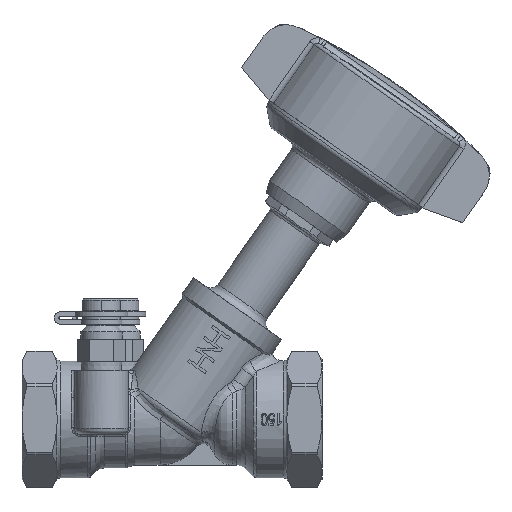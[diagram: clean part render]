
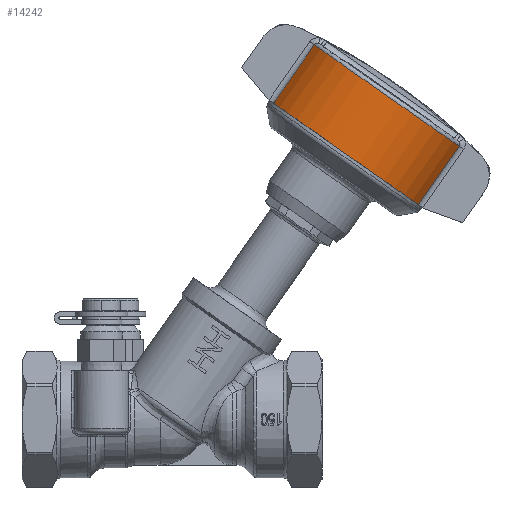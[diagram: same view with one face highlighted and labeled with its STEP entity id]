
A CAD part, front view. The second image highlights one B-rep face of the part: STEP entity #14242.
In plain terms, the highlighted cylindrical face has radius 31.925 mm (diameter 63.85 mm), a partial arc.
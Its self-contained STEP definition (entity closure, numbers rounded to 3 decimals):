
#13101=CARTESIAN_POINT('',(45.681,-12.348,91.032));
#13102=VERTEX_POINT('',#13101);
#13110=CARTESIAN_POINT('',(32.088,-12.348,71.618));
#13111=VERTEX_POINT('',#13110);
#13112=CARTESIAN_POINT('',(45.681,-12.348,91.032));
#13113=DIRECTION('',(-0.574,0.,-0.819));
#13114=VECTOR('',#13113,23.7);
#13115=LINE('',#13112,#13114);
#13116=EDGE_CURVE('',#13102,#13111,#13115,.T.);
#13511=CARTESIAN_POINT('',(-2.565,-12.308,124.814));
#13512=VERTEX_POINT('',#13511);
#13542=CARTESIAN_POINT('',(-16.158,-12.308,105.4));
#13543=VERTEX_POINT('',#13542);
#13551=CARTESIAN_POINT('',(-16.158,-12.308,105.4));
#13552=DIRECTION('',(0.574,0.,0.819));
#13553=VECTOR('',#13552,23.7);
#13554=LINE('',#13551,#13553);
#13555=EDGE_CURVE('',#13543,#13512,#13554,.T.);
#14215=CARTESIAN_POINT('',(21.565,0.,107.918));
#14216=DIRECTION('',(-0.574,0.,-0.819));
#14217=DIRECTION('',(0.819,-0.001,-0.574));
#14218=AXIS2_PLACEMENT_3D('',#14215,#14216,#14217);
#14219=CIRCLE('',#14218,31.925);
#14220=EDGE_CURVE('',#13102,#13512,#14219,.T.);
#14225=CARTESIAN_POINT('',(14.768,0.,98.211));
#14226=DIRECTION('',(-0.574,0.,-0.819));
#14227=DIRECTION('',(0.819,-0.001,-0.574));
#14228=AXIS2_PLACEMENT_3D('',#14225,#14226,#14227);
#14229=CYLINDRICAL_SURFACE('',#14228,31.925);
#14230=ORIENTED_EDGE('',*,*,#13116,.F.);
#14231=ORIENTED_EDGE('',*,*,#14220,.T.);
#14232=ORIENTED_EDGE('',*,*,#13555,.F.);
#14233=CARTESIAN_POINT('',(7.971,0.,88.504));
#14234=DIRECTION('',(-0.574,0.,-0.819));
#14235=DIRECTION('',(0.819,-0.001,-0.574));
#14236=AXIS2_PLACEMENT_3D('',#14233,#14234,#14235);
#14237=CIRCLE('',#14236,31.925);
#14238=EDGE_CURVE('',#13111,#13543,#14237,.T.);
#14239=ORIENTED_EDGE('',*,*,#14238,.F.);
#14240=EDGE_LOOP('',(#14230,#14231,#14232,#14239));
#14241=FACE_OUTER_BOUND('',#14240,.T.);
#14242=ADVANCED_FACE('',(#14241),#14229,.T.);
